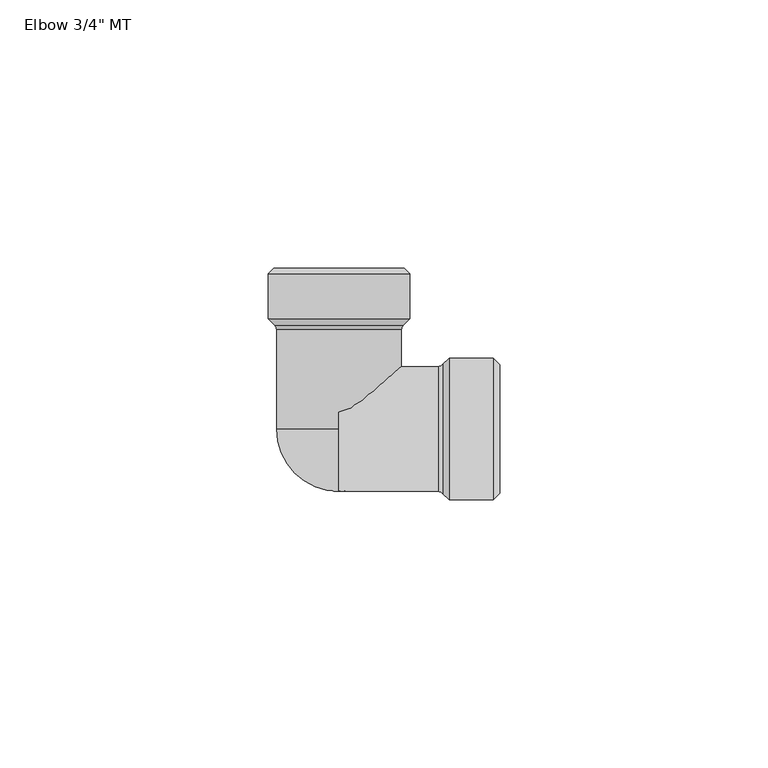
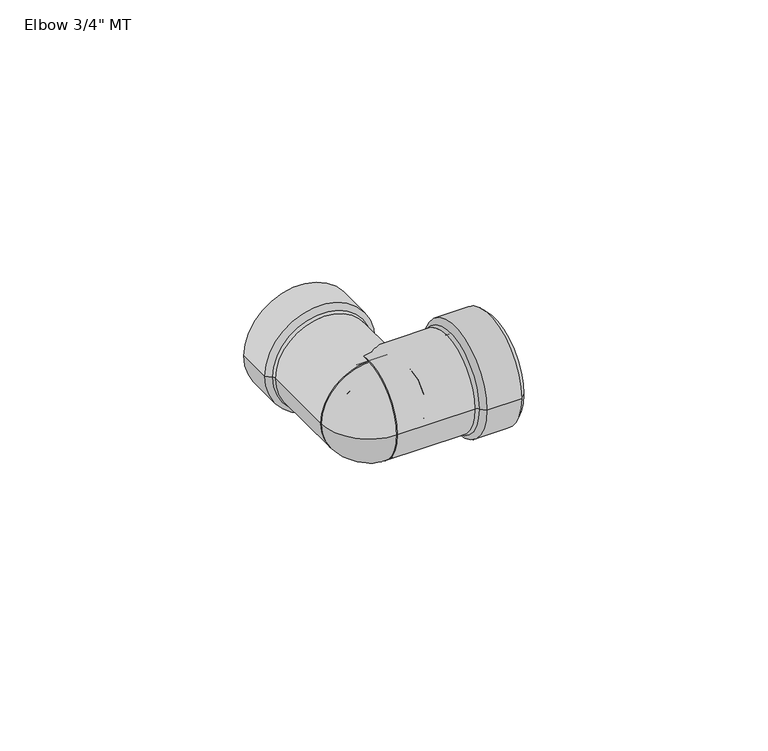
"""IFC4 building model written with IfcOpenShell, lengths in millimetres: pipe fitting geometry."""

from ifc_helpers import new_model, si_unit, point, frame, origin, origin_with_axes, place, context, project, spatial, polyline, circle_curve, ellipse_curve, trimmed, source, transform, mapped, element, save
from ifc_brep_helpers import plane_surface, cylinder_surface, revolved_surface, advanced_brep


def pipe_fitting_0ffa7dfd(model_context):
    return source(origin(), model_context, "Body", "AdvancedBrep", [
        advanced_brep(
        [(0.0, 11.6500006, 0.0), (0.0, -11.6500006, 0.0), (0.0, -9.100001, 0.0), (0.0, 9.100001, 0.0), (18.5157864, 11.6500006, 0.0), (18.5157864, -11.6500006, 0.0), (19.3348786, 12.0319495, 0.0), (19.3348786, -12.0319495, 0.0), (20.5229305, 13.2200014, 0.0), (20.5229305, -13.2200014, 0.0), (28.8, 13.2200014, 0.0), (28.8, -13.2200014, 0.0), (30.0, 12.0200014, 0.0), (30.0, -12.0200014, 0.0), (30.0, 9.100001, 0.0), (30.0, -9.100001, 0.0)],
        [
            (0, 1, circle_curve(frame((0.0, 0.0, 0.0), z_axis=(-1.0, 0.0, 0.0), x_axis=(0.0, -1.0, 0.0)), 11.6500006)),
            (1, 2),
            (2, 3, circle_curve(frame((0.0, 0.0, 0.0), z_axis=(1.0, 0.0, 0.0), x_axis=(0.0, -1.0, 0.0)), 9.100001)),
            (3, 0),
            (1, 0, circle_curve(frame((0.0, 0.0, 0.0), z_axis=(-1.0, 0.0, 0.0), x_axis=(0.0, -1.0, 0.0)), 11.6500006)),
            (3, 2, circle_curve(frame((0.0, 0.0, 0.0), z_axis=(1.0, 0.0, 0.0), x_axis=(0.0, -1.0, 0.0)), 9.100001)),
            (4, 5, circle_curve(frame((18.5157864, 0.0, 0.0), z_axis=(-1.0, 0.0, 0.0), x_axis=(0.0, -1.0, 0.0)), 11.6500006)),
            (5, 1),
            (0, 4),
            (5, 4, circle_curve(frame((18.5157864, 0.0, 0.0), z_axis=(-1.0, 0.0, 0.0), x_axis=(0.0, -1.0, 0.0)), 11.6500006)),
            (6, 7, circle_curve(frame((19.3348786, 0.0, 0.0), z_axis=(-1.0, 0.0, 0.0), x_axis=(0.0, -1.0, 0.0)), 12.0319495)),
            (7, 5, circle_curve(frame((18.5157864, -12.7192495, 0.0), z_axis=(0.0, 0.0, 1.0), x_axis=(1.0, 0.0, 0.0)), 1.0692489)),
            (4, 6, circle_curve(frame((18.5157864, 12.7192495, 0.0), z_axis=(0.0, 0.0, 1.0), x_axis=(1.0, 0.0, 0.0)), 1.0692489)),
            (7, 6, circle_curve(frame((19.3348786, 0.0, 0.0), z_axis=(-1.0, 0.0, 0.0), x_axis=(0.0, -1.0, 0.0)), 12.0319495)),
            (8, 9, circle_curve(frame((20.5229305, 0.0, 0.0), z_axis=(-1.0, 0.0, 0.0), x_axis=(0.0, -1.0, 0.0)), 13.2200014)),
            (9, 7),
            (6, 8),
            (9, 8, circle_curve(frame((20.5229305, 0.0, 0.0), z_axis=(-1.0, 0.0, 0.0), x_axis=(0.0, -1.0, 0.0)), 13.2200014)),
            (10, 11, circle_curve(frame((28.8, 0.0, 0.0), z_axis=(-1.0, 0.0, 0.0), x_axis=(0.0, -1.0, 0.0)), 13.2200014)),
            (11, 9),
            (8, 10),
            (11, 10, circle_curve(frame((28.8, 0.0, 0.0), z_axis=(-1.0, 0.0, 0.0), x_axis=(0.0, -1.0, 0.0)), 13.2200014)),
            (12, 13, circle_curve(frame((30.0, 0.0, 0.0), z_axis=(-1.0, 0.0, 0.0), x_axis=(0.0, -1.0, 0.0)), 12.0200014)),
            (13, 11),
            (10, 12),
            (13, 12, circle_curve(frame((30.0, 0.0, 0.0), z_axis=(-1.0, 0.0, 0.0), x_axis=(0.0, -1.0, 0.0)), 12.0200014)),
            (14, 15, circle_curve(frame((30.0, 0.0, 0.0), z_axis=(-1.0, 0.0, 0.0), x_axis=(0.0, -1.0, 0.0)), 9.100001)),
            (15, 13),
            (12, 14),
            (15, 14, circle_curve(frame((30.0, 0.0, 0.0), z_axis=(-1.0, 0.0, 0.0), x_axis=(0.0, -1.0, 0.0)), 9.100001)),
            (2, 15),
            (14, 3),
        ],
        [
            plane_surface(frame((0.0, 0.0, 0.0), z_axis=(-1.0, 0.0, 0.0), x_axis=(0.0, -1.0, 0.0))),
            cylinder_surface(frame((35.0, 0.0, 0.0), z_axis=(1.0, 0.0, 0.0), x_axis=(0.0, -1.0, 0.0)), 11.6500006),
            revolved_surface(trimmed(ellipse_curve(frame((18.5157864, -12.7192495, 0.0), z_axis=(0.0, 0.0, -1.0), x_axis=(1.0, 0.0, 0.0)), 1.0692489, 1.0692489), [point((18.5157864, -11.6500006, 0.0))], [point((19.3348786, -12.0319495, 0.0))], True, "CARTESIAN"), (35.0, 0.0, 0.0), (1.0, 0.0, 0.0)),
            revolved_surface(polyline([(19.3348786, -12.0319495, 0.0), (20.5229305, -13.2200014, 0.0)]), (35.0, 0.0, 0.0), (1.0, 0.0, 0.0)),
            cylinder_surface(frame((35.0, 0.0, 0.0), z_axis=(1.0, 0.0, 0.0), x_axis=(0.0, -1.0, 0.0)), 13.2200014),
            revolved_surface(polyline([(28.8, -13.2200014, 0.0), (30.0, -12.0200014, 0.0)]), (35.0, 0.0, 0.0), (1.0, 0.0, 0.0)),
            plane_surface(frame((30.0, 0.0, 0.0), z_axis=(1.0, 0.0, 0.0), x_axis=(0.0, -1.0, 0.0))),
            revolved_surface(polyline([(30.0, -9.100001, 0.0), (0.0, -9.100001, 0.0)]), (35.0, 0.0, 0.0), (1.0, 0.0, 0.0)),
        ],
        [
            (0, [[1, 2, 3, 4]]),
            (0, [[5, -4, 6, -2]]),
            (1, [[7, 8, -1, 9]]),
            (1, [[10, -9, -5, -8]]),
            (2, [[11, 12, -7, 13]]),
            (2, [[14, -13, -10, -12]]),
            (3, [[15, 16, -11, 17]]),
            (3, [[18, -17, -14, -16]]),
            (4, [[19, 20, -15, 21]]),
            (4, [[22, -21, -18, -20]]),
            (5, [[23, 24, -19, 25]]),
            (5, [[26, -25, -22, -24]]),
            (6, [[27, 28, -23, 29]]),
            (6, [[30, -29, -26, -28]]),
            (7, [[-3, 31, -27, 32]]),
            (7, [[-6, -32, -30, -31]]),
        ],
    ),
        advanced_brep(
        [(11.6500006, 0.0, 0.0), (-11.6500006, 0.0, 0.0), (-11.6500006, 18.5157864, 0.0), (11.6500006, 18.5157864, 0.0), (9.100001, 0.0, 0.0), (-9.100001, 0.0, 0.0), (9.100001, 30.0, 0.0), (-9.100001, 30.0, 0.0), (12.2000014, 30.0, 0.0), (-12.2000014, 30.0, 0.0), (13.2200014, 28.98, 0.0), (-13.2200014, 28.98, 0.0), (13.2200014, 20.5148259, 0.0), (-13.2200014, 20.5148259, 0.0), (12.0248683, 19.3196928, 0.0), (-12.0248683, 19.3196928, 0.0)],
        [
            (0, 1, circle_curve(frame((0.0, 0.0, 0.0), z_axis=(0.0, 1.0, 0.0), x_axis=(-1.0, 0.0, 0.0)), 11.6500006)),
            (1, 2),
            (2, 3, circle_curve(frame((0.0, 18.5157864, 0.0), z_axis=(0.0, -1.0, 0.0), x_axis=(-1.0, 0.0, 0.0)), 11.6500006)),
            (3, 0),
            (1, 0, circle_curve(frame((0.0, 0.0, 0.0), z_axis=(0.0, 1.0, 0.0), x_axis=(-1.0, 0.0, 0.0)), 11.6500006)),
            (3, 2, circle_curve(frame((0.0, 18.5157864, 0.0), z_axis=(0.0, -1.0, 0.0), x_axis=(-1.0, 0.0, 0.0)), 11.6500006)),
            (4, 5, circle_curve(frame((0.0, 0.0, 0.0), z_axis=(0.0, 1.0, 0.0), x_axis=(-1.0, 0.0, 0.0)), 9.100001)),
            (5, 1),
            (0, 4),
            (5, 4, circle_curve(frame((0.0, 0.0, 0.0), z_axis=(0.0, 1.0, 0.0), x_axis=(-1.0, 0.0, 0.0)), 9.100001)),
            (6, 7, circle_curve(frame((0.0, 30.0, 0.0), z_axis=(0.0, 1.0, 0.0), x_axis=(-1.0, 0.0, 0.0)), 9.100001)),
            (7, 5),
            (4, 6),
            (7, 6, circle_curve(frame((0.0, 30.0, 0.0), z_axis=(0.0, 1.0, 0.0), x_axis=(-1.0, 0.0, 0.0)), 9.100001)),
            (8, 9, circle_curve(frame((0.0, 30.0, 0.0), z_axis=(0.0, 1.0, 0.0), x_axis=(-1.0, 0.0, 0.0)), 12.2000014)),
            (9, 7),
            (6, 8),
            (9, 8, circle_curve(frame((0.0, 30.0, 0.0), z_axis=(0.0, 1.0, 0.0), x_axis=(-1.0, 0.0, 0.0)), 12.2000014)),
            (10, 11, circle_curve(frame((0.0, 28.98, 0.0), z_axis=(0.0, 1.0, 0.0), x_axis=(-1.0, 0.0, 0.0)), 13.2200014)),
            (11, 9),
            (8, 10),
            (11, 10, circle_curve(frame((0.0, 28.98, 0.0), z_axis=(0.0, 1.0, 0.0), x_axis=(-1.0, 0.0, 0.0)), 13.2200014)),
            (12, 13, circle_curve(frame((0.0, 20.5148259, 0.0), z_axis=(0.0, 1.0, 0.0), x_axis=(-1.0, 0.0, 0.0)), 13.2200014)),
            (13, 11),
            (10, 12),
            (13, 12, circle_curve(frame((0.0, 20.5148259, 0.0), z_axis=(0.0, 1.0, 0.0), x_axis=(-1.0, 0.0, 0.0)), 13.2200014)),
            (14, 15, circle_curve(frame((0.0, 19.3196928, 0.0), z_axis=(0.0, 1.0, 0.0), x_axis=(-1.0, 0.0, 0.0)), 12.0248683)),
            (15, 13),
            (12, 14),
            (15, 14, circle_curve(frame((0.0, 19.3196928, 0.0), z_axis=(0.0, 1.0, 0.0), x_axis=(-1.0, 0.0, 0.0)), 12.0248683)),
            (2, 15, circle_curve(frame((-12.6994258, 18.5157864, 0.0), z_axis=(0.0, 0.0, 1.0), x_axis=(1.0, 0.0, 0.0)), 1.0494252)),
            (14, 3, circle_curve(frame((12.6994258, 18.5157864, 0.0), z_axis=(0.0, 0.0, 1.0), x_axis=(-1.0, 0.0, 0.0)), 1.0494252)),
        ],
        [
            cylinder_surface(frame((0.0, 31.4581677, 0.0), z_axis=(0.0, -1.0, 0.0), x_axis=(-1.0, 0.0, 0.0)), 11.6500006),
            plane_surface(frame((0.0, 0.0, 0.0), z_axis=(0.0, -1.0, 0.0), x_axis=(-1.0, 0.0, 0.0))),
            revolved_surface(polyline([(-9.100001, 0.0, 0.0), (-9.100001, 30.0, 0.0)]), (0.0, 31.4581677, 0.0), (0.0, -1.0, 0.0)),
            plane_surface(frame((0.0, 30.0, 0.0), z_axis=(0.0, 1.0, 0.0), x_axis=(-1.0, 0.0, 0.0))),
            revolved_surface(polyline([(-12.2000014, 30.0, 0.0), (-13.2200014, 28.98, 0.0)]), (0.0, 31.4581677, 0.0), (0.0, -1.0, 0.0)),
            cylinder_surface(frame((0.0, 31.4581677, 0.0), z_axis=(0.0, -1.0, 0.0), x_axis=(-1.0, 0.0, 0.0)), 13.2200014),
            revolved_surface(polyline([(-13.2200014, 20.5148259, 0.0), (-12.0248683, 19.3196928, 0.0)]), (0.0, 31.4581677, 0.0), (0.0, -1.0, 0.0)),
            revolved_surface(trimmed(ellipse_curve(frame((-12.6994258, 18.5157864, 0.0), z_axis=(0.0, 0.0, -1.0), x_axis=(1.0, 0.0, 0.0)), 1.0494252, 1.0494252), [point((-12.0248683, 19.3196928, 0.0))], [point((-11.6500006, 18.5157864, 0.0))], True, "CARTESIAN"), (0.0, 31.4581677, 0.0), (0.0, -1.0, 0.0)),
        ],
        [
            (0, [[1, 2, 3, 4]]),
            (0, [[5, -4, 6, -2]]),
            (1, [[7, 8, -1, 9]]),
            (1, [[10, -9, -5, -8]]),
            (2, [[11, 12, -7, 13]]),
            (2, [[14, -13, -10, -12]]),
            (3, [[15, 16, -11, 17]]),
            (3, [[18, -17, -14, -16]]),
            (4, [[19, 20, -15, 21]]),
            (4, [[22, -21, -18, -20]]),
            (5, [[23, 24, -19, 25]]),
            (5, [[26, -25, -22, -24]]),
            (6, [[27, 28, -23, 29]]),
            (6, [[30, -29, -26, -28]]),
            (7, [[-3, 31, -27, 32]]),
            (7, [[-6, -32, -30, -31]]),
        ],
    ),
        advanced_brep(
        [(0.0, -11.6500006, 0.0), (-11.6500006, 0.0, 0.0), (11.6500006, 0.0, 0.0), (0.0, 0.0, 0.0)],
        [
            (0, 1, circle_curve(frame((0.0, 0.0, 0.0), z_axis=(0.0, 0.0, -1.0), x_axis=(1.0, 0.0, 0.0)), 11.6500006)),
            (1, 2, circle_curve(frame((0.0, 0.0, 0.0), z_axis=(0.0, -1.0, 0.0), x_axis=(-1.0, 0.0, 0.0)), 11.6500006)),
            (2, 0, circle_curve(frame((0.0, 0.0, 0.0), z_axis=(0.0, 0.0, -1.0), x_axis=(-1.0, 0.0, 0.0)), 11.6500006)),
            (2, 1, circle_curve(frame((0.0, 0.0, 0.0), z_axis=(0.0, -1.0, 0.0), x_axis=(-1.0, 0.0, 0.0)), 11.6500006)),
            (1, 3),
            (3, 2),
        ],
        [
            revolved_surface(trimmed(ellipse_curve(origin_with_axes(), 11.6500006, 11.6500006), [point((-11.6500006, 0.0, 0.0))], [point((0.0, -11.6500006, 0.0))], True, "CARTESIAN"), (0.0, 11.2822017, 0.0), (0.0, -1.0, 0.0)),
            plane_surface(frame((0.0, 0.0, 0.0), z_axis=(0.0, 1.0, 0.0), x_axis=(-1.0, 0.0, 0.0))),
        ],
        [
            (0, [[1, 2, 3]]),
            (0, [[-3, 4, -1]]),
            (1, [[-2, 5, 6]]),
            (1, [[-4, -6, -5]]),
        ],
    ),
    ])


if __name__ == "__main__":
    model = new_model("IFC4")
    model_context = context("Model", 3, world=origin())
    ifc_project = project(units=[si_unit("LENGTHUNIT", "METRE", prefix="MILLI")], contexts=[model_context])
    site = spatial("IfcSite", under=ifc_project)
    building = spatial("IfcBuilding", under=site)
    placement = place(None, origin())
    pipe_fitting_shape = pipe_fitting_0ffa7dfd(model_context)
    element("IfcPipeFitting", 1, ObjectType="Elbow 3/4\" MT", at=placement, inside=building, context=model_context, shape_type="MappedRepresentation", body=[
        mapped(pipe_fitting_shape, transform((0.0, 0.0, 0.0), x_axis=(1.0, 0.0, 0.0), y_axis=(0.0, 1.0, 0.0), z_axis=(0.0, 0.0, 1.0))),
    ])
    save(model, "model.ifc")
